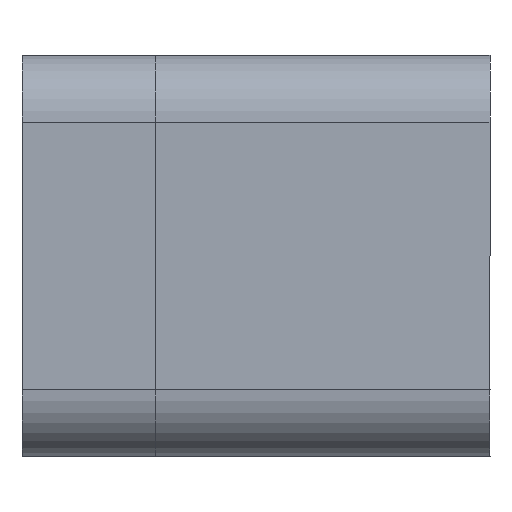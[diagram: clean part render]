
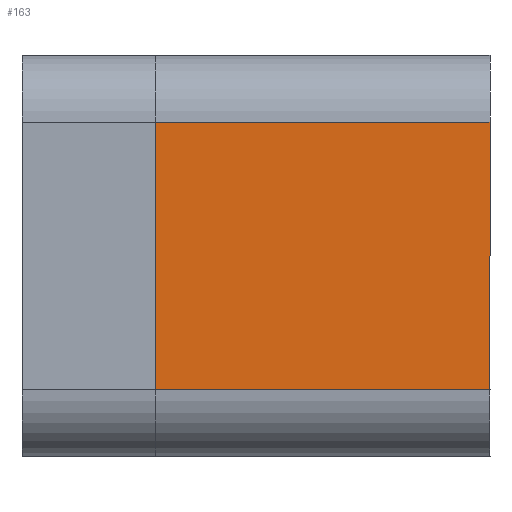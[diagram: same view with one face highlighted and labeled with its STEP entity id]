
A CAD part, left-side view. The second image highlights one B-rep face of the part: STEP entity #163.
In plain terms, the highlighted planar face has unit normal (-1, 0, 0).
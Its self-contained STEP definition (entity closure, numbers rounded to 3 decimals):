
#18 = CARTESIAN_POINT ( 'NONE',  ( -14., -4., -6. ) ) ;
#39 = VERTEX_POINT ( 'NONE', #348 ) ;
#82 = CARTESIAN_POINT ( 'NONE',  ( -14., -9., -2. ) ) ;
#96 = ORIENTED_EDGE ( 'NONE', *, *, #603, .F. ) ;
#98 = ORIENTED_EDGE ( 'NONE', *, *, #807, .T. ) ;
#99 = ORIENTED_EDGE ( 'NONE', *, *, #535, .T. ) ;
#100 = ORIENTED_EDGE ( 'NONE', *, *, #655, .T. ) ;
#108 = PLANE ( 'NONE',  #519 ) ;
#163 = ADVANCED_FACE ( 'NONE', ( #384 ), #108, .F. ) ;
#185 = CARTESIAN_POINT ( 'NONE',  ( -14., -14., -10. ) ) ;
#213 = LINE ( 'NONE', #18, #241 ) ;
#235 = DIRECTION ( 'NONE',  ( 1., 0., 0. ) ) ;
#241 = VECTOR ( 'NONE', #818, 1000. ) ;
#266 = LINE ( 'NONE', #615, #278 ) ;
#278 = VECTOR ( 'NONE', #880, 1000. ) ;
#333 = VERTEX_POINT ( 'NONE', #517 ) ;
#341 = DIRECTION ( 'NONE',  ( 0., 1., 0. ) ) ;
#348 = CARTESIAN_POINT ( 'NONE',  ( -14., -4., -10. ) ) ;
#384 = FACE_OUTER_BOUND ( 'NONE', #838, .T. ) ;
#478 = VECTOR ( 'NONE', #499, 1000. ) ;
#499 = DIRECTION ( 'NONE',  ( 0., 0., -1. ) ) ;
#517 = CARTESIAN_POINT ( 'NONE',  ( -14., -4., -2. ) ) ;
#519 = AXIS2_PLACEMENT_3D ( 'NONE', #695, #235, #341 ) ;
#535 = EDGE_CURVE ( 'NONE', #333, #39, #213, .T. ) ;
#566 = VERTEX_POINT ( 'NONE', #185 ) ;
#603 = EDGE_CURVE ( 'NONE', #877, #566, #878, .T. ) ;
#615 = CARTESIAN_POINT ( 'NONE',  ( -14., -9., -10. ) ) ;
#655 = EDGE_CURVE ( 'NONE', #877, #333, #889, .T. ) ;
#695 = CARTESIAN_POINT ( 'NONE',  ( -14., -14., -10. ) ) ;
#711 = CARTESIAN_POINT ( 'NONE',  ( -14., -14., -2. ) ) ;
#733 = CARTESIAN_POINT ( 'NONE',  ( -14., -14., -6. ) ) ;
#755 = VECTOR ( 'NONE', #846, 1000. ) ;
#807 = EDGE_CURVE ( 'NONE', #39, #566, #266, .T. ) ;
#818 = DIRECTION ( 'NONE',  ( 0., 0., -1. ) ) ;
#838 = EDGE_LOOP ( 'NONE', ( #100, #99, #98, #96 ) ) ;
#846 = DIRECTION ( 'NONE',  ( 0., 1., 0. ) ) ;
#877 = VERTEX_POINT ( 'NONE', #711 ) ;
#878 = LINE ( 'NONE', #733, #478 ) ;
#880 = DIRECTION ( 'NONE',  ( 0., -1., 0. ) ) ;
#889 = LINE ( 'NONE', #82, #755 ) ;
